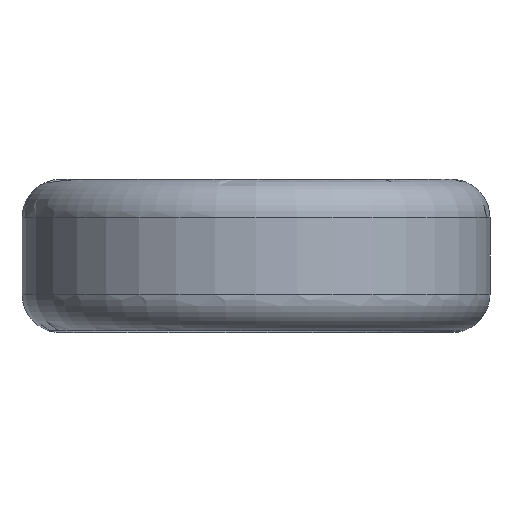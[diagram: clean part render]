
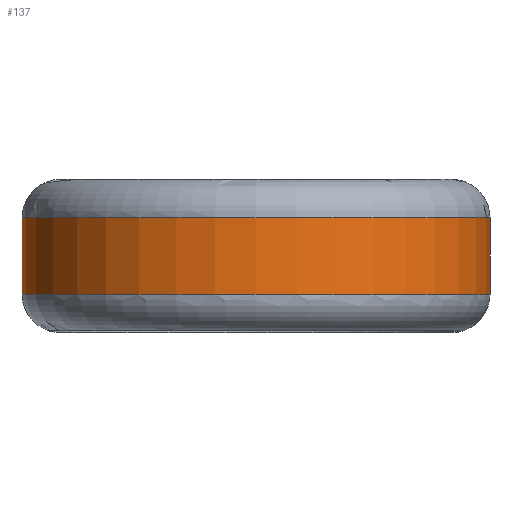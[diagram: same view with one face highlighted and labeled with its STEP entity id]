
A CAD part, left-side view. The second image highlights one B-rep face of the part: STEP entity #137.
In plain terms, the highlighted cylindrical face has radius 30.55 mm (diameter 61.1 mm), a partial arc.
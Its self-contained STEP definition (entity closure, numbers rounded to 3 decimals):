
#21 = EDGE_CURVE('',#22,#24,#26,.T.);
#22 = VERTEX_POINT('',#23);
#23 = CARTESIAN_POINT('',(-54.906,165.55,227.5));
#24 = VERTEX_POINT('',#25);
#25 = CARTESIAN_POINT('',(-54.906,165.55,237.5));
#26 = SURFACE_CURVE('',#27,(#31,#43),.PCURVE_S1.);
#27 = LINE('',#28,#29);
#28 = CARTESIAN_POINT('',(-54.906,165.55,222.5));
#29 = VECTOR('',#30,1.);
#30 = DIRECTION('',(0.,0.,1.));
#31 = PCURVE('',#32,#37);
#32 = PLANE('',#33);
#33 = AXIS2_PLACEMENT_3D('',#34,#35,#36);
#34 = CARTESIAN_POINT('',(-54.906,165.55,222.5));
#35 = DIRECTION('',(0.,1.,0.));
#36 = DIRECTION('',(1.,0.,0.));
#37 = DEFINITIONAL_REPRESENTATION('',(#38),#42);
#38 = LINE('',#39,#40);
#39 = CARTESIAN_POINT('',(0.,0.));
#40 = VECTOR('',#41,1.);
#41 = DIRECTION('',(0.,-1.));
#42 = ( GEOMETRIC_REPRESENTATION_CONTEXT(2) 
PARAMETRIC_REPRESENTATION_CONTEXT() REPRESENTATION_CONTEXT('2D SPACE',''
  ) );
#43 = PCURVE('',#44,#49);
#44 = CYLINDRICAL_SURFACE('',#45,30.55);
#45 = AXIS2_PLACEMENT_3D('',#46,#47,#48);
#46 = CARTESIAN_POINT('',(-54.906,135.,222.5));
#47 = DIRECTION('',(0.,-0.,-1.));
#48 = DIRECTION('',(0.,-1.,0.));
#49 = DEFINITIONAL_REPRESENTATION('',(#50),#54);
#50 = LINE('',#51,#52);
#51 = CARTESIAN_POINT('',(3.142,0.));
#52 = VECTOR('',#53,1.);
#53 = DIRECTION('',(0.,-1.));
#54 = ( GEOMETRIC_REPRESENTATION_CONTEXT(2) 
PARAMETRIC_REPRESENTATION_CONTEXT() REPRESENTATION_CONTEXT('2D SPACE',''
  ) );
#137 = ADVANCED_FACE('',(#138),#44,.T.);
#138 = FACE_BOUND('',#139,.T.);
#139 = EDGE_LOOP('',(#140,#170,#197,#198));
#140 = ORIENTED_EDGE('',*,*,#141,.T.);
#141 = EDGE_CURVE('',#142,#144,#146,.T.);
#142 = VERTEX_POINT('',#143);
#143 = CARTESIAN_POINT('',(-54.906,104.45,227.5));
#144 = VERTEX_POINT('',#145);
#145 = CARTESIAN_POINT('',(-54.906,104.45,237.5));
#146 = SURFACE_CURVE('',#147,(#151,#158),.PCURVE_S1.);
#147 = LINE('',#148,#149);
#148 = CARTESIAN_POINT('',(-54.906,104.45,222.5));
#149 = VECTOR('',#150,1.);
#150 = DIRECTION('',(0.,0.,1.));
#151 = PCURVE('',#44,#152);
#152 = DEFINITIONAL_REPRESENTATION('',(#153),#157);
#153 = LINE('',#154,#155);
#154 = CARTESIAN_POINT('',(0.,0.));
#155 = VECTOR('',#156,1.);
#156 = DIRECTION('',(0.,-1.));
#157 = ( GEOMETRIC_REPRESENTATION_CONTEXT(2) 
PARAMETRIC_REPRESENTATION_CONTEXT() REPRESENTATION_CONTEXT('2D SPACE',''
  ) );
#158 = PCURVE('',#159,#164);
#159 = PLANE('',#160);
#160 = AXIS2_PLACEMENT_3D('',#161,#162,#163);
#161 = CARTESIAN_POINT('',(29.094,104.45,222.5));
#162 = DIRECTION('',(0.,-1.,0.));
#163 = DIRECTION('',(-1.,0.,0.));
#164 = DEFINITIONAL_REPRESENTATION('',(#165),#169);
#165 = LINE('',#166,#167);
#166 = CARTESIAN_POINT('',(84.,0.));
#167 = VECTOR('',#168,1.);
#168 = DIRECTION('',(0.,-1.));
#169 = ( GEOMETRIC_REPRESENTATION_CONTEXT(2) 
PARAMETRIC_REPRESENTATION_CONTEXT() REPRESENTATION_CONTEXT('2D SPACE',''
  ) );
#170 = ORIENTED_EDGE('',*,*,#171,.T.);
#171 = EDGE_CURVE('',#144,#24,#172,.T.);
#172 = SURFACE_CURVE('',#173,(#178,#185),.PCURVE_S1.);
#173 = CIRCLE('',#174,30.55);
#174 = AXIS2_PLACEMENT_3D('',#175,#176,#177);
#175 = CARTESIAN_POINT('',(-54.906,135.,237.5));
#176 = DIRECTION('',(-0.,0.,-1.));
#177 = DIRECTION('',(0.,-1.,-0.));
#178 = PCURVE('',#44,#179);
#179 = DEFINITIONAL_REPRESENTATION('',(#180),#184);
#180 = LINE('',#181,#182);
#181 = CARTESIAN_POINT('',(0.,-15.));
#182 = VECTOR('',#183,1.);
#183 = DIRECTION('',(1.,0.));
#184 = ( GEOMETRIC_REPRESENTATION_CONTEXT(2) 
PARAMETRIC_REPRESENTATION_CONTEXT() REPRESENTATION_CONTEXT('2D SPACE',''
  ) );
#185 = PCURVE('',#186,#191);
#186 = TOROIDAL_SURFACE('',#187,25.55,5.);
#187 = AXIS2_PLACEMENT_3D('',#188,#189,#190);
#188 = CARTESIAN_POINT('',(-54.906,135.,237.5));
#189 = DIRECTION('',(0.,-0.,1.));
#190 = DIRECTION('',(0.,-1.,-0.));
#191 = DEFINITIONAL_REPRESENTATION('',(#192),#196);
#192 = LINE('',#193,#194);
#193 = CARTESIAN_POINT('',(-0.,0.));
#194 = VECTOR('',#195,1.);
#195 = DIRECTION('',(-1.,0.));
#196 = ( GEOMETRIC_REPRESENTATION_CONTEXT(2) 
PARAMETRIC_REPRESENTATION_CONTEXT() REPRESENTATION_CONTEXT('2D SPACE',''
  ) );
#197 = ORIENTED_EDGE('',*,*,#21,.F.);
#198 = ORIENTED_EDGE('',*,*,#199,.F.);
#199 = EDGE_CURVE('',#142,#22,#200,.T.);
#200 = SURFACE_CURVE('',#201,(#206,#213),.PCURVE_S1.);
#201 = CIRCLE('',#202,30.55);
#202 = AXIS2_PLACEMENT_3D('',#203,#204,#205);
#203 = CARTESIAN_POINT('',(-54.906,135.,227.5));
#204 = DIRECTION('',(-0.,0.,-1.));
#205 = DIRECTION('',(0.,-1.,-0.));
#206 = PCURVE('',#44,#207);
#207 = DEFINITIONAL_REPRESENTATION('',(#208),#212);
#208 = LINE('',#209,#210);
#209 = CARTESIAN_POINT('',(0.,-5.));
#210 = VECTOR('',#211,1.);
#211 = DIRECTION('',(1.,0.));
#212 = ( GEOMETRIC_REPRESENTATION_CONTEXT(2) 
PARAMETRIC_REPRESENTATION_CONTEXT() REPRESENTATION_CONTEXT('2D SPACE',''
  ) );
#213 = PCURVE('',#214,#219);
#214 = TOROIDAL_SURFACE('',#215,25.55,5.);
#215 = AXIS2_PLACEMENT_3D('',#216,#217,#218);
#216 = CARTESIAN_POINT('',(-54.906,135.,227.5));
#217 = DIRECTION('',(-0.,0.,-1.));
#218 = DIRECTION('',(0.,-1.,-0.));
#219 = DEFINITIONAL_REPRESENTATION('',(#220),#224);
#220 = LINE('',#221,#222);
#221 = CARTESIAN_POINT('',(0.,0.));
#222 = VECTOR('',#223,1.);
#223 = DIRECTION('',(1.,0.));
#224 = ( GEOMETRIC_REPRESENTATION_CONTEXT(2) 
PARAMETRIC_REPRESENTATION_CONTEXT() REPRESENTATION_CONTEXT('2D SPACE',''
  ) );
